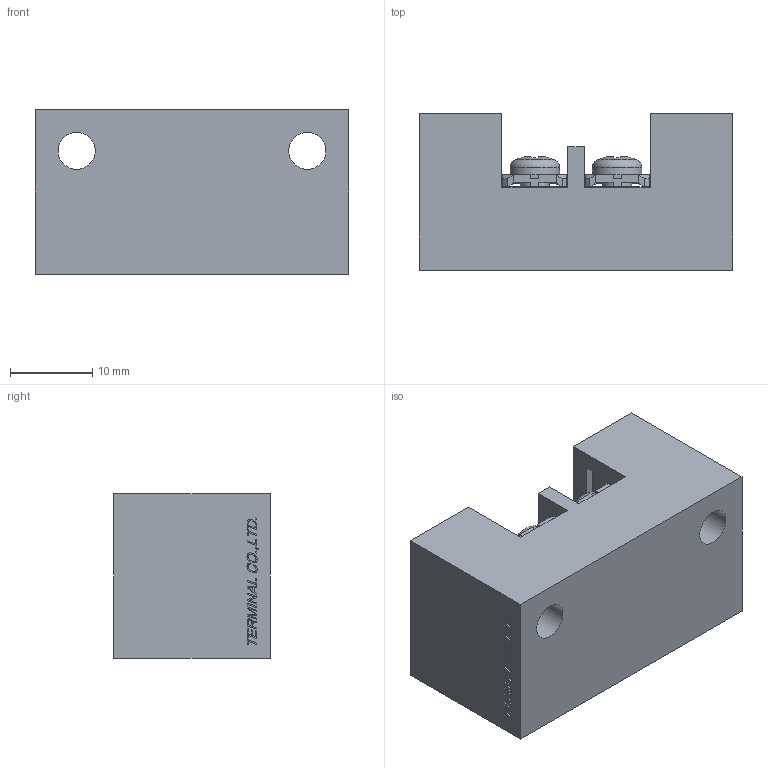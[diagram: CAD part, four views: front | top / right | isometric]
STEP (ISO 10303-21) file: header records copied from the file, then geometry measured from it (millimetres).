
FILE_DESCRIPTION(/* description */ ('Alibre Inc.'),/* implementation_level */ '2;1');
FILE_NAME(/* name */ 'export0',/* time_stamp */ '2016-02-13T17:45:18+09:00',/* author */ (''),/* organization */ (''),/* preprocessor_version */ 'ST-DEVELOPER v14',/* originating_system */ 'Alibre',/* authorisation */ '');
FILE_SCHEMA (('CONFIG_CONTROL_DESIGN'));
Length unit declared in the file: centimetre
Products named in the file (1): ID_1
Bounding box: 38 x 19 x 20 mm (x, y, z)
Volume: 10682.2 mm3; surface area: 5652.9 mm2
Topology: 1 solids, 5 shells, 583 faces, 1563 edges, 1002 vertices
Faces by surface type: plane 403, bspline 116, cone 20, cylinder 16, extrusion 16, sphere 8, torus 4
Full cylindrical faces by diameter (mm): 3.5 x8, 4.5 x2, 6 x4, 7 x2
Entity records: 19935 total; most frequent: CARTESIAN_POINT 6862, ORIENTED_EDGE 3062, DIRECTION 1832, EDGE_CURVE 1531, VECTOR 1091, LINE 1083, VERTEX_POINT 994, EDGE_LOOP 659
